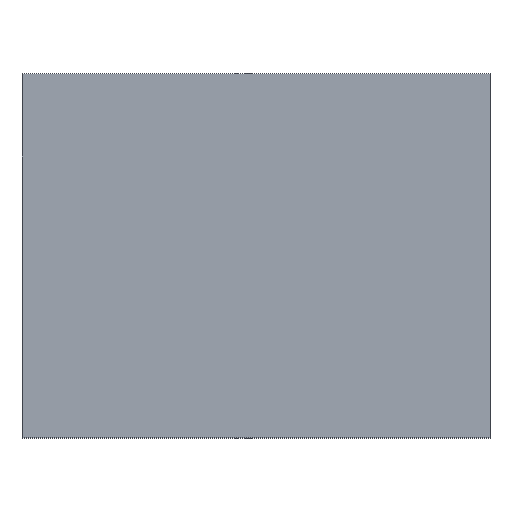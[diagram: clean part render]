
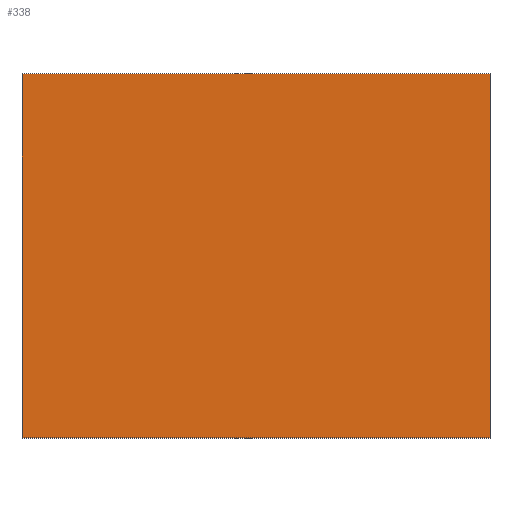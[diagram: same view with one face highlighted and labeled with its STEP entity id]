
A CAD part, top view. The second image highlights one B-rep face of the part: STEP entity #338.
In plain terms, the highlighted planar face has unit normal (0, 0, 1).
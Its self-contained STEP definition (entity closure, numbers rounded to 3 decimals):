
#24 = VERTEX_POINT('',#25);
#25 = CARTESIAN_POINT('',(190.,0.,700.));
#32 = PLANE('',#33);
#33 = AXIS2_PLACEMENT_3D('',#34,#35,#36);
#34 = CARTESIAN_POINT('',(190.,0.,650.));
#35 = DIRECTION('',(1.,0.,0.));
#36 = DIRECTION('',(0.,0.,1.));
#44 = PLANE('',#45);
#45 = AXIS2_PLACEMENT_3D('',#46,#47,#48);
#46 = CARTESIAN_POINT('',(190.,0.,650.));
#47 = DIRECTION('',(0.,1.,0.));
#48 = DIRECTION('',(0.,0.,1.));
#85 = VERTEX_POINT('',#86);
#86 = CARTESIAN_POINT('',(190.,70.,700.));
#100 = PLANE('',#101);
#101 = AXIS2_PLACEMENT_3D('',#102,#103,#104);
#102 = CARTESIAN_POINT('',(190.,70.,650.));
#103 = DIRECTION('',(0.,1.,0.));
#104 = DIRECTION('',(0.,0.,1.));
#112 = EDGE_CURVE('',#24,#85,#113,.T.);
#113 = SURFACE_CURVE('',#114,(#118,#125),.PCURVE_S1.);
#114 = LINE('',#115,#116);
#115 = CARTESIAN_POINT('',(190.,0.,700.));
#116 = VECTOR('',#117,1.);
#117 = DIRECTION('',(0.,1.,0.));
#118 = PCURVE('',#32,#119);
#119 = DEFINITIONAL_REPRESENTATION('',(#120),#124);
#120 = LINE('',#121,#122);
#121 = CARTESIAN_POINT('',(50.,0.));
#122 = VECTOR('',#123,1.);
#123 = DIRECTION('',(0.,-1.));
#124 = ( GEOMETRIC_REPRESENTATION_CONTEXT(2) 
PARAMETRIC_REPRESENTATION_CONTEXT() REPRESENTATION_CONTEXT('2D SPACE',''
  ) );
#125 = PCURVE('',#126,#131);
#126 = PLANE('',#127);
#127 = AXIS2_PLACEMENT_3D('',#128,#129,#130);
#128 = CARTESIAN_POINT('',(190.,0.,700.));
#129 = DIRECTION('',(0.,0.,1.));
#130 = DIRECTION('',(1.,0.,0.));
#131 = DEFINITIONAL_REPRESENTATION('',(#132),#136);
#132 = LINE('',#133,#134);
#133 = CARTESIAN_POINT('',(0.,0.));
#134 = VECTOR('',#135,1.);
#135 = DIRECTION('',(0.,1.));
#136 = ( GEOMETRIC_REPRESENTATION_CONTEXT(2) 
PARAMETRIC_REPRESENTATION_CONTEXT() REPRESENTATION_CONTEXT('2D SPACE',''
  ) );
#144 = VERTEX_POINT('',#145);
#145 = CARTESIAN_POINT('',(280.,0.,700.));
#152 = PLANE('',#153);
#153 = AXIS2_PLACEMENT_3D('',#154,#155,#156);
#154 = CARTESIAN_POINT('',(280.,0.,650.));
#155 = DIRECTION('',(1.,0.,0.));
#156 = DIRECTION('',(0.,0.,1.));
#195 = VERTEX_POINT('',#196);
#196 = CARTESIAN_POINT('',(280.,70.,700.));
#217 = EDGE_CURVE('',#144,#195,#218,.T.);
#218 = SURFACE_CURVE('',#219,(#223,#230),.PCURVE_S1.);
#219 = LINE('',#220,#221);
#220 = CARTESIAN_POINT('',(280.,0.,700.));
#221 = VECTOR('',#222,1.);
#222 = DIRECTION('',(0.,1.,0.));
#223 = PCURVE('',#152,#224);
#224 = DEFINITIONAL_REPRESENTATION('',(#225),#229);
#225 = LINE('',#226,#227);
#226 = CARTESIAN_POINT('',(50.,0.));
#227 = VECTOR('',#228,1.);
#228 = DIRECTION('',(0.,-1.));
#229 = ( GEOMETRIC_REPRESENTATION_CONTEXT(2) 
PARAMETRIC_REPRESENTATION_CONTEXT() REPRESENTATION_CONTEXT('2D SPACE',''
  ) );
#230 = PCURVE('',#126,#231);
#231 = DEFINITIONAL_REPRESENTATION('',(#232),#236);
#232 = LINE('',#233,#234);
#233 = CARTESIAN_POINT('',(90.,0.));
#234 = VECTOR('',#235,1.);
#235 = DIRECTION('',(0.,1.));
#236 = ( GEOMETRIC_REPRESENTATION_CONTEXT(2) 
PARAMETRIC_REPRESENTATION_CONTEXT() REPRESENTATION_CONTEXT('2D SPACE',''
  ) );
#263 = EDGE_CURVE('',#24,#144,#264,.T.);
#264 = SURFACE_CURVE('',#265,(#269,#276),.PCURVE_S1.);
#265 = LINE('',#266,#267);
#266 = CARTESIAN_POINT('',(190.,0.,700.));
#267 = VECTOR('',#268,1.);
#268 = DIRECTION('',(1.,0.,0.));
#269 = PCURVE('',#44,#270);
#270 = DEFINITIONAL_REPRESENTATION('',(#271),#275);
#271 = LINE('',#272,#273);
#272 = CARTESIAN_POINT('',(50.,0.));
#273 = VECTOR('',#274,1.);
#274 = DIRECTION('',(0.,1.));
#275 = ( GEOMETRIC_REPRESENTATION_CONTEXT(2) 
PARAMETRIC_REPRESENTATION_CONTEXT() REPRESENTATION_CONTEXT('2D SPACE',''
  ) );
#276 = PCURVE('',#126,#277);
#277 = DEFINITIONAL_REPRESENTATION('',(#278),#282);
#278 = LINE('',#279,#280);
#279 = CARTESIAN_POINT('',(0.,0.));
#280 = VECTOR('',#281,1.);
#281 = DIRECTION('',(1.,0.));
#282 = ( GEOMETRIC_REPRESENTATION_CONTEXT(2) 
PARAMETRIC_REPRESENTATION_CONTEXT() REPRESENTATION_CONTEXT('2D SPACE',''
  ) );
#310 = EDGE_CURVE('',#85,#195,#311,.T.);
#311 = SURFACE_CURVE('',#312,(#316,#323),.PCURVE_S1.);
#312 = LINE('',#313,#314);
#313 = CARTESIAN_POINT('',(190.,70.,700.));
#314 = VECTOR('',#315,1.);
#315 = DIRECTION('',(1.,0.,0.));
#316 = PCURVE('',#100,#317);
#317 = DEFINITIONAL_REPRESENTATION('',(#318),#322);
#318 = LINE('',#319,#320);
#319 = CARTESIAN_POINT('',(50.,0.));
#320 = VECTOR('',#321,1.);
#321 = DIRECTION('',(0.,1.));
#322 = ( GEOMETRIC_REPRESENTATION_CONTEXT(2) 
PARAMETRIC_REPRESENTATION_CONTEXT() REPRESENTATION_CONTEXT('2D SPACE',''
  ) );
#323 = PCURVE('',#126,#324);
#324 = DEFINITIONAL_REPRESENTATION('',(#325),#329);
#325 = LINE('',#326,#327);
#326 = CARTESIAN_POINT('',(0.,70.));
#327 = VECTOR('',#328,1.);
#328 = DIRECTION('',(1.,0.));
#329 = ( GEOMETRIC_REPRESENTATION_CONTEXT(2) 
PARAMETRIC_REPRESENTATION_CONTEXT() REPRESENTATION_CONTEXT('2D SPACE',''
  ) );
#338 = ADVANCED_FACE('',(#339),#126,.T.);
#339 = FACE_BOUND('',#340,.T.);
#340 = EDGE_LOOP('',(#341,#342,#343,#344));
#341 = ORIENTED_EDGE('',*,*,#112,.F.);
#342 = ORIENTED_EDGE('',*,*,#263,.T.);
#343 = ORIENTED_EDGE('',*,*,#217,.T.);
#344 = ORIENTED_EDGE('',*,*,#310,.F.);
